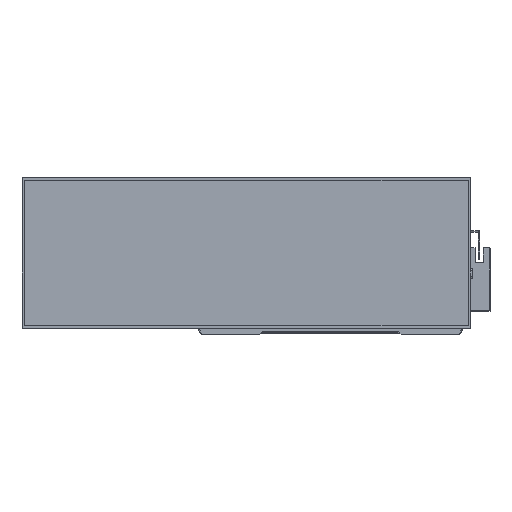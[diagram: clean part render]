
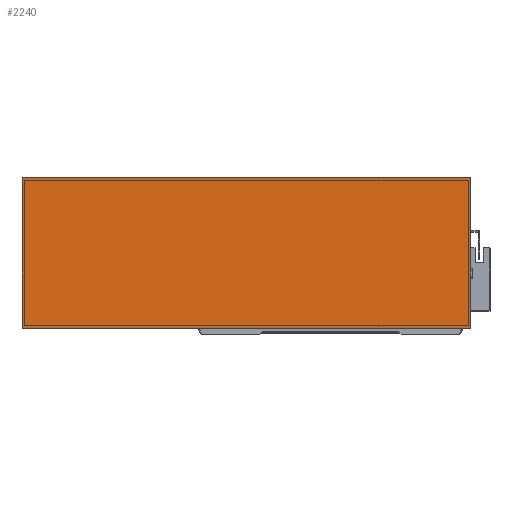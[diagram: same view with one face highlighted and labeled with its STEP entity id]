
A CAD part, top view. The second image highlights one B-rep face of the part: STEP entity #2240.
In plain terms, the highlighted planar face has unit normal (0, 0, 1).
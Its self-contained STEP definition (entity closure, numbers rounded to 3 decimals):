
#694 = VECTOR ( 'NONE', #12478, 1000. ) ;
#1282 = PLANE ( 'NONE',  #14615 ) ;
#2240 = ADVANCED_FACE ( 'NONE', ( #3165 ), #1282, .F. ) ;
#3165 = FACE_OUTER_BOUND ( 'NONE', #13949, .T. ) ;
#3293 = VERTEX_POINT ( 'NONE', #7630 ) ;
#5291 = VECTOR ( 'NONE', #11489, 1000. ) ;
#5455 = DIRECTION ( 'NONE',  ( 0., 0., -1. ) ) ;
#5760 = ORIENTED_EDGE ( 'NONE', *, *, #8463, .T. ) ;
#6305 = LINE ( 'NONE', #20934, #694 ) ;
#7359 = LINE ( 'NONE', #12870, #17962 ) ;
#7630 = CARTESIAN_POINT ( 'NONE',  ( 0., 0., 50. ) ) ;
#8463 = EDGE_CURVE ( 'NONE', #20212, #3293, #6305, .T. ) ;
#8678 = VERTEX_POINT ( 'NONE', #8932 ) ;
#8876 = EDGE_CURVE ( 'NONE', #3293, #25728, #25891, .T. ) ;
#8932 = CARTESIAN_POINT ( 'NONE',  ( 277., 93., 50. ) ) ;
#10895 = LINE ( 'NONE', #22100, #5291 ) ;
#11489 = DIRECTION ( 'NONE',  ( -1., 0., 0. ) ) ;
#12478 = DIRECTION ( 'NONE',  ( 0., -1., 0. ) ) ;
#12577 = VECTOR ( 'NONE', #22798, 1000. ) ;
#12870 = CARTESIAN_POINT ( 'NONE',  ( 277., 0., 50. ) ) ;
#13949 = EDGE_LOOP ( 'NONE', ( #5760, #23714, #26792, #18237 ) ) ;
#14615 = AXIS2_PLACEMENT_3D ( 'NONE', #16071, #5455, #19004 ) ;
#15570 = CARTESIAN_POINT ( 'NONE',  ( 0., 93., 50. ) ) ;
#16071 = CARTESIAN_POINT ( 'NONE',  ( 0., 0., 50. ) ) ;
#16237 = EDGE_CURVE ( 'NONE', #25728, #8678, #7359, .T. ) ;
#17131 = DIRECTION ( 'NONE',  ( 0., 1., 0. ) ) ;
#17962 = VECTOR ( 'NONE', #17131, 1000. ) ;
#18237 = ORIENTED_EDGE ( 'NONE', *, *, #20716, .T. ) ;
#19004 = DIRECTION ( 'NONE',  ( -1., 0., 0. ) ) ;
#20212 = VERTEX_POINT ( 'NONE', #15570 ) ;
#20641 = CARTESIAN_POINT ( 'NONE',  ( 0., 0., 50. ) ) ;
#20716 = EDGE_CURVE ( 'NONE', #8678, #20212, #10895, .T. ) ;
#20934 = CARTESIAN_POINT ( 'NONE',  ( 0., 0., 50. ) ) ;
#22100 = CARTESIAN_POINT ( 'NONE',  ( 0., 93., 50. ) ) ;
#22731 = CARTESIAN_POINT ( 'NONE',  ( 277., 0., 50. ) ) ;
#22798 = DIRECTION ( 'NONE',  ( 1., 0., 0. ) ) ;
#23714 = ORIENTED_EDGE ( 'NONE', *, *, #8876, .T. ) ;
#25728 = VERTEX_POINT ( 'NONE', #22731 ) ;
#25891 = LINE ( 'NONE', #20641, #12577 ) ;
#26792 = ORIENTED_EDGE ( 'NONE', *, *, #16237, .T. ) ;
